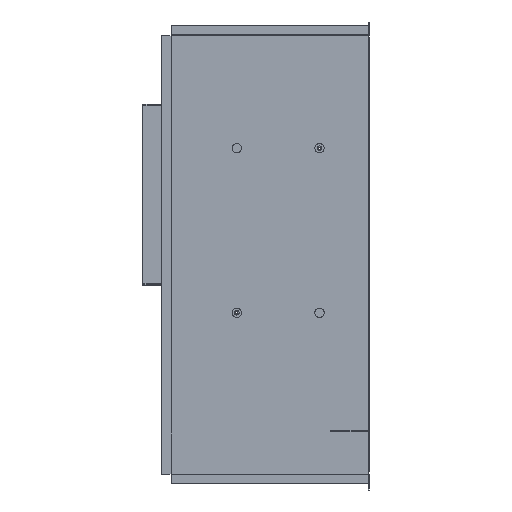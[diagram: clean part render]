
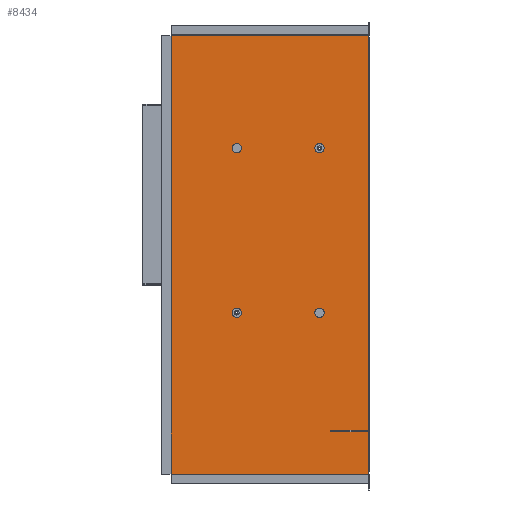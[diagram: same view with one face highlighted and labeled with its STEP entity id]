
A CAD part, left-side view. The second image highlights one B-rep face of the part: STEP entity #8434.
In plain terms, the highlighted planar face has unit normal (-1, 0, 0) as drawn and (0, 0, 1) by its records, which use the part's own axes.
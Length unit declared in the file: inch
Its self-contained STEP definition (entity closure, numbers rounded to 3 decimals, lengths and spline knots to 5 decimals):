
#650 = DIRECTION ( 'NONE',  ( -1., 0., 0. ) ) ;
#652 = DIRECTION ( 'NONE',  ( 0., 0., -1. ) ) ;
#670 = CARTESIAN_POINT ( 'NONE',  ( 5.54313, 65.34481, 0.5 ) ) ;
#810 = DIRECTION ( 'NONE',  ( 0., 1., 0. ) ) ;
#908 = DIRECTION ( 'NONE',  ( -1., 0., 0. ) ) ;
#912 = DIRECTION ( 'NONE',  ( 0., 0., -1. ) ) ;
#931 = CARTESIAN_POINT ( 'NONE',  ( -3.39012, 60.8507, 0.5 ) ) ;
#1389 = AXIS2_PLACEMENT_3D ( 'NONE', #2851, #15518, #9695 ) ;
#1421 = AXIS2_PLACEMENT_3D ( 'NONE', #13766, #14538, #16277 ) ;
#1437 = AXIS2_PLACEMENT_3D ( 'NONE', #8731, #8784, #9375 ) ;
#1439 = AXIS2_PLACEMENT_3D ( 'NONE', #2640, #3192, #5839 ) ;
#1473 = DIRECTION ( 'NONE',  ( -1., 0., 0. ) ) ;
#1489 = DIRECTION ( 'NONE',  ( 0., 0., -1. ) ) ;
#1511 = CARTESIAN_POINT ( 'NONE',  ( -3.39012, 65.34481, 0.5 ) ) ;
#1642 = VERTEX_POINT ( 'NONE', #14489 ) ;
#1689 = AXIS2_PLACEMENT_3D ( 'NONE', #931, #912, #908 ) ;
#1710 = AXIS2_PLACEMENT_3D ( 'NONE', #670, #652, #650 ) ;
#1741 = AXIS2_PLACEMENT_3D ( 'NONE', #1511, #1489, #1473 ) ;
#1765 = AXIS2_PLACEMENT_3D ( 'NONE', #1795, #1779, #1777 ) ;
#1777 = DIRECTION ( 'NONE',  ( -1., 0., 0. ) ) ;
#1779 = DIRECTION ( 'NONE',  ( 0., 0., -1. ) ) ;
#1795 = CARTESIAN_POINT ( 'NONE',  ( 5.54313, 60.8507, 0.5 ) ) ;
#1948 = CARTESIAN_POINT ( 'NONE',  ( 0., 58.1964, 0.5 ) ) ;
#2018 = FACE_BOUND ( 'NONE', #4889, .T. ) ;
#2056 = FACE_BOUND ( 'NONE', #3480, .T. ) ;
#2145 = FACE_BOUND ( 'NONE', #3753, .T. ) ;
#2166 = FACE_BOUND ( 'NONE', #3328, .T. ) ;
#2201 = FACE_OUTER_BOUND ( 'NONE', #5414, .T. ) ;
#2325 = CARTESIAN_POINT ( 'NONE',  ( -3.64012, 65.34481, 0.5 ) ) ;
#2434 = ORIENTED_EDGE ( 'NONE', *, *, #4990, .T. ) ;
#2494 = CARTESIAN_POINT ( 'NONE',  ( 11.66608, 0., 0.5 ) ) ;
#2640 = CARTESIAN_POINT ( 'NONE',  ( 5.54313, 65.34481, 0.5 ) ) ;
#2810 = DIRECTION ( 'NONE',  ( 1., 0., 0. ) ) ;
#2851 = CARTESIAN_POINT ( 'NONE',  ( 5.54313, 60.8507, 0.5 ) ) ;
#3192 = DIRECTION ( 'NONE',  ( 0., 0., -1. ) ) ;
#3328 = EDGE_LOOP ( 'NONE', ( #13004, #20034 ) ) ;
#3480 = EDGE_LOOP ( 'NONE', ( #18679, #17140 ) ) ;
#3623 = CARTESIAN_POINT ( 'NONE',  ( -12.15145, 0., 0.5 ) ) ;
#3753 = EDGE_LOOP ( 'NONE', ( #7513, #6125 ) ) ;
#3822 = CARTESIAN_POINT ( 'NONE',  ( 5.79313, 65.34481, 0.5 ) ) ;
#3894 = DIRECTION ( 'NONE',  ( 1., 0., 0. ) ) ;
#3899 = DIRECTION ( 'NONE',  ( 0., 0., 1. ) ) ;
#3932 = CARTESIAN_POINT ( 'NONE',  ( 0., 0., 0.5 ) ) ;
#3960 = PLANE ( 'NONE',  #19265 ) ;
#3995 = CARTESIAN_POINT ( 'NONE',  ( -3.14012, 65.34481, 0.5 ) ) ;
#4090 = VERTEX_POINT ( 'NONE', #5486 ) ;
#4231 = ORIENTED_EDGE ( 'NONE', *, *, #4877, .T. ) ;
#4312 = VERTEX_POINT ( 'NONE', #3822 ) ;
#4477 = EDGE_CURVE ( 'NONE', #13162, #18573, #13770, .T. ) ;
#4512 = EDGE_CURVE ( 'NONE', #9223, #6418, #14379, .T. ) ;
#4564 = EDGE_CURVE ( 'NONE', #18115, #14871, #14696, .T. ) ;
#4612 = EDGE_CURVE ( 'NONE', #4312, #1642, #15311, .T. ) ;
#4819 = EDGE_CURVE ( 'NONE', #10906, #16996, #17149, .T. ) ;
#4824 = EDGE_CURVE ( 'NONE', #16996, #4090, #17294, .T. ) ;
#4853 = EDGE_CURVE ( 'NONE', #4090, #17872, #17754, .T. ) ;
#4877 = EDGE_CURVE ( 'NONE', #17872, #13278, #17725, .T. ) ;
#4885 = EDGE_CURVE ( 'NONE', #13278, #16131, #18265, .T. ) ;
#4889 = EDGE_LOOP ( 'NONE', ( #9293, #15836 ) ) ;
#4933 = EDGE_CURVE ( 'NONE', #16131, #18871, #18612, .T. ) ;
#4945 = ORIENTED_EDGE ( 'NONE', *, *, #4819, .T. ) ;
#4990 = EDGE_CURVE ( 'NONE', #18871, #7419, #18651, .T. ) ;
#4994 = EDGE_CURVE ( 'NONE', #7419, #10906, #19039, .T. ) ;
#4998 = EDGE_CURVE ( 'NONE', #1642, #4312, #19201, .T. ) ;
#5013 = EDGE_CURVE ( 'NONE', #14871, #18115, #19304, .T. ) ;
#5015 = EDGE_CURVE ( 'NONE', #6418, #9223, #19319, .T. ) ;
#5019 = CARTESIAN_POINT ( 'NONE',  ( -12.15145, 68.91515, 0.5 ) ) ;
#5047 = EDGE_CURVE ( 'NONE', #18573, #13162, #19375, .T. ) ;
#5414 = EDGE_LOOP ( 'NONE', ( #2434, #9507, #4945, #19362, #6104, #4231, #15795, #5865 ) ) ;
#5486 = CARTESIAN_POINT ( 'NONE',  ( 11.66608, 58.1964, 0.5 ) ) ;
#5839 = DIRECTION ( 'NONE',  ( -1., 0., 0. ) ) ;
#5865 = ORIENTED_EDGE ( 'NONE', *, *, #4933, .T. ) ;
#6104 = ORIENTED_EDGE ( 'NONE', *, *, #4853, .T. ) ;
#6125 = ORIENTED_EDGE ( 'NONE', *, *, #4564, .T. ) ;
#6155 = CARTESIAN_POINT ( 'NONE',  ( 0., 68.91515, 0.5 ) ) ;
#6418 = VERTEX_POINT ( 'NONE', #2325 ) ;
#6517 = DIRECTION ( 'NONE',  ( 0., -1., 0. ) ) ;
#6730 = CARTESIAN_POINT ( 'NONE',  ( 5.79313, 60.8507, 0.5 ) ) ;
#6783 = CARTESIAN_POINT ( 'NONE',  ( -9.86539, 58.1964, 0.5 ) ) ;
#6885 = CARTESIAN_POINT ( 'NONE',  ( -9.76539, 0., 0.5 ) ) ;
#7308 = DIRECTION ( 'NONE',  ( 0., -1., 0. ) ) ;
#7419 = VERTEX_POINT ( 'NONE', #13276 ) ;
#7513 = ORIENTED_EDGE ( 'NONE', *, *, #5013, .T. ) ;
#8134 = DIRECTION ( 'NONE',  ( 1., 0., 0. ) ) ;
#8434 = ADVANCED_FACE ( 'NONE', ( #2018, #2056, #2145, #2166, #2201 ), #3960, .T. ) ;
#8718 = CARTESIAN_POINT ( 'NONE',  ( -9.76539, 58.1964, 0.5 ) ) ;
#8731 = CARTESIAN_POINT ( 'NONE',  ( -3.39012, 60.8507, 0.5 ) ) ;
#8784 = DIRECTION ( 'NONE',  ( 0., 0., -1. ) ) ;
#9223 = VERTEX_POINT ( 'NONE', #3995 ) ;
#9293 = ORIENTED_EDGE ( 'NONE', *, *, #5047, .T. ) ;
#9375 = DIRECTION ( 'NONE',  ( -1., 0., 0. ) ) ;
#9507 = ORIENTED_EDGE ( 'NONE', *, *, #4994, .T. ) ;
#9695 = DIRECTION ( 'NONE',  ( -1., 0., 0. ) ) ;
#9781 = CARTESIAN_POINT ( 'NONE',  ( -9.76539, 60.25311, 0.5 ) ) ;
#10367 = CARTESIAN_POINT ( 'NONE',  ( -3.64012, 60.8507, 0.5 ) ) ;
#10906 = VERTEX_POINT ( 'NONE', #9781 ) ;
#11155 = CARTESIAN_POINT ( 'NONE',  ( 5.29313, 60.8507, 0.5 ) ) ;
#13004 = ORIENTED_EDGE ( 'NONE', *, *, #4998, .T. ) ;
#13162 = VERTEX_POINT ( 'NONE', #6730 ) ;
#13276 = CARTESIAN_POINT ( 'NONE',  ( -9.86539, 60.25311, 0.5 ) ) ;
#13278 = VERTEX_POINT ( 'NONE', #5019 ) ;
#13766 = CARTESIAN_POINT ( 'NONE',  ( -3.39012, 65.34481, 0.5 ) ) ;
#13770 = CIRCLE ( 'NONE', #1765, 0.25 ) ;
#14379 = CIRCLE ( 'NONE', #1741, 0.25 ) ;
#14421 = DIRECTION ( 'NONE',  ( -1., 0., 0. ) ) ;
#14422 = CARTESIAN_POINT ( 'NONE',  ( 0., 60.25311, 0.5 ) ) ;
#14489 = CARTESIAN_POINT ( 'NONE',  ( 5.29313, 65.34481, 0.5 ) ) ;
#14538 = DIRECTION ( 'NONE',  ( 0., 0., -1. ) ) ;
#14682 = DIRECTION ( 'NONE',  ( 0., 1., 0. ) ) ;
#14696 = CIRCLE ( 'NONE', #1689, 0.25 ) ;
#14871 = VERTEX_POINT ( 'NONE', #10367 ) ;
#14950 = CARTESIAN_POINT ( 'NONE',  ( -9.86539, 0., 0.5 ) ) ;
#15311 = CIRCLE ( 'NONE', #1710, 0.25 ) ;
#15518 = DIRECTION ( 'NONE',  ( 0., 0., -1. ) ) ;
#15795 = ORIENTED_EDGE ( 'NONE', *, *, #4885, .T. ) ;
#15836 = ORIENTED_EDGE ( 'NONE', *, *, #4477, .T. ) ;
#16032 = CARTESIAN_POINT ( 'NONE',  ( 0., 58.1964, 0.5 ) ) ;
#16095 = CARTESIAN_POINT ( 'NONE',  ( -3.14012, 60.8507, 0.5 ) ) ;
#16131 = VERTEX_POINT ( 'NONE', #18294 ) ;
#16277 = DIRECTION ( 'NONE',  ( -1., 0., 0. ) ) ;
#16467 = DIRECTION ( 'NONE',  ( 1., 0., 0. ) ) ;
#16996 = VERTEX_POINT ( 'NONE', #8718 ) ;
#17140 = ORIENTED_EDGE ( 'NONE', *, *, #4512, .T. ) ;
#17149 = LINE ( 'NONE', #6885, #17440 ) ;
#17294 = LINE ( 'NONE', #1948, #17648 ) ;
#17440 = VECTOR ( 'NONE', #6517, 39.37008 ) ;
#17648 = VECTOR ( 'NONE', #8134, 39.37008 ) ;
#17725 = LINE ( 'NONE', #6155, #18084 ) ;
#17754 = LINE ( 'NONE', #2494, #17780 ) ;
#17780 = VECTOR ( 'NONE', #810, 39.37008 ) ;
#17872 = VERTEX_POINT ( 'NONE', #19916 ) ;
#18084 = VECTOR ( 'NONE', #14421, 39.37008 ) ;
#18115 = VERTEX_POINT ( 'NONE', #16095 ) ;
#18265 = LINE ( 'NONE', #3623, #18347 ) ;
#18294 = CARTESIAN_POINT ( 'NONE',  ( -12.15145, 58.1964, 0.5 ) ) ;
#18347 = VECTOR ( 'NONE', #7308, 39.37008 ) ;
#18573 = VERTEX_POINT ( 'NONE', #11155 ) ;
#18612 = LINE ( 'NONE', #16032, #18626 ) ;
#18626 = VECTOR ( 'NONE', #2810, 39.37008 ) ;
#18651 = LINE ( 'NONE', #14950, #19119 ) ;
#18679 = ORIENTED_EDGE ( 'NONE', *, *, #5015, .T. ) ;
#18871 = VERTEX_POINT ( 'NONE', #6783 ) ;
#19039 = LINE ( 'NONE', #14422, #19257 ) ;
#19119 = VECTOR ( 'NONE', #14682, 39.37008 ) ;
#19201 = CIRCLE ( 'NONE', #1439, 0.25 ) ;
#19257 = VECTOR ( 'NONE', #16467, 39.37008 ) ;
#19265 = AXIS2_PLACEMENT_3D ( 'NONE', #3932, #3899, #3894 ) ;
#19304 = CIRCLE ( 'NONE', #1437, 0.25 ) ;
#19319 = CIRCLE ( 'NONE', #1421, 0.25 ) ;
#19362 = ORIENTED_EDGE ( 'NONE', *, *, #4824, .T. ) ;
#19375 = CIRCLE ( 'NONE', #1389, 0.25 ) ;
#19916 = CARTESIAN_POINT ( 'NONE',  ( 11.66608, 68.91515, 0.5 ) ) ;
#20034 = ORIENTED_EDGE ( 'NONE', *, *, #4612, .T. ) ;
